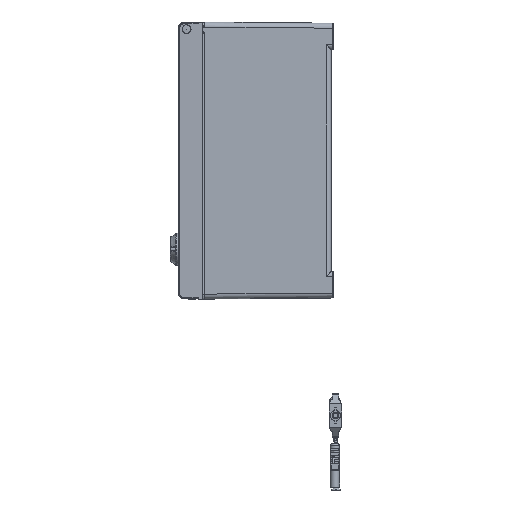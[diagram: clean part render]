
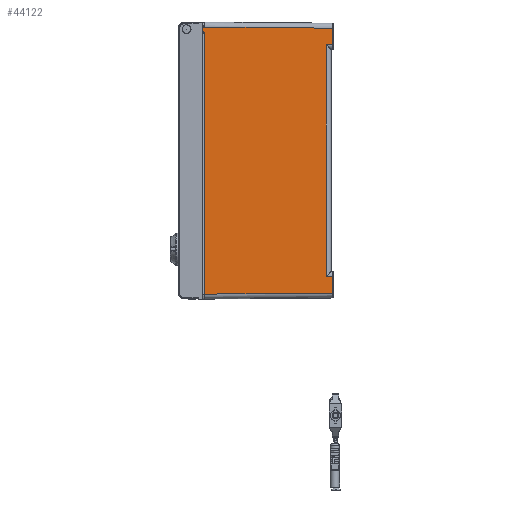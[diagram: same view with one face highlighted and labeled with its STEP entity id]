
A CAD part, left-side view. The second image highlights one B-rep face of the part: STEP entity #44122.
In plain terms, the highlighted planar face has unit normal (-1, -0.018, 0).
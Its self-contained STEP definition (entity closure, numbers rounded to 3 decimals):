
#2776=FACE_OUTER_BOUND('',#5617,.T.);
#5617=EDGE_LOOP('',(#30683,#30684,#30685,#30686,#30687,#30688,#30689,#30690,
#30691,#30692,#30693));
#12146=LINE('',#72000,#15387);
#12147=LINE('',#72065,#15388);
#12199=LINE('',#74181,#15440);
#12206=LINE('',#74388,#15447);
#12207=LINE('',#74392,#15448);
#12209=LINE('',#74396,#15450);
#12210=LINE('',#74400,#15451);
#12211=LINE('',#74402,#15452);
#12212=LINE('',#74403,#15453);
#12213=LINE('',#74405,#15454);
#12214=LINE('',#74406,#15455);
#15387=VECTOR('',#52835,14.936);
#15388=VECTOR('',#52842,115.074);
#15440=VECTOR('',#53018,14.936);
#15447=VECTOR('',#53055,5.441);
#15448=VECTOR('',#53060,208.828);
#15450=VECTOR('',#53066,5.441);
#15451=VECTOR('',#53069,4.147);
#15452=VECTOR('',#53070,9.477);
#15453=VECTOR('',#53071,236.419);
#15454=VECTOR('',#53072,115.076);
#15455=VECTOR('',#53073,9.475);
#18827=VERTEX_POINT('',#71995);
#18828=VERTEX_POINT('',#71999);
#18829=VERTEX_POINT('',#72064);
#18905=VERTEX_POINT('',#74176);
#18906=VERTEX_POINT('',#74180);
#18911=VERTEX_POINT('',#74387);
#18912=VERTEX_POINT('',#74391);
#18913=VERTEX_POINT('',#74398);
#18914=VERTEX_POINT('',#74399);
#18915=VERTEX_POINT('',#74401);
#18916=VERTEX_POINT('',#74404);
#23185=EDGE_CURVE('',#18827,#18828,#12146,.T.);
#23188=EDGE_CURVE('',#18828,#18829,#12147,.T.);
#23309=EDGE_CURVE('',#18905,#18906,#12199,.T.);
#23324=EDGE_CURVE('',#18906,#18911,#12206,.T.);
#23326=EDGE_CURVE('',#18912,#18911,#12207,.T.);
#23329=EDGE_CURVE('',#18827,#18912,#12209,.T.);
#23330=EDGE_CURVE('',#18913,#18914,#12210,.T.);
#23331=EDGE_CURVE('',#18915,#18914,#12211,.T.);
#23332=EDGE_CURVE('',#18915,#18829,#12212,.T.);
#23333=EDGE_CURVE('',#18916,#18905,#12213,.T.);
#23334=EDGE_CURVE('',#18916,#18913,#12214,.T.);
#30683=ORIENTED_EDGE('',*,*,#23330,.T.);
#30684=ORIENTED_EDGE('',*,*,#23331,.F.);
#30685=ORIENTED_EDGE('',*,*,#23332,.T.);
#30686=ORIENTED_EDGE('',*,*,#23188,.F.);
#30687=ORIENTED_EDGE('',*,*,#23185,.F.);
#30688=ORIENTED_EDGE('',*,*,#23329,.T.);
#30689=ORIENTED_EDGE('',*,*,#23326,.T.);
#30690=ORIENTED_EDGE('',*,*,#23324,.F.);
#30691=ORIENTED_EDGE('',*,*,#23309,.F.);
#30692=ORIENTED_EDGE('',*,*,#23333,.F.);
#30693=ORIENTED_EDGE('',*,*,#23334,.T.);
#42981=PLANE('',#47450);
#44122=ADVANCED_FACE('',(#2776),#42981,.T.);
#47450=AXIS2_PLACEMENT_3D('',#74397,#53067,#53068);
#52835=DIRECTION('',(0.,0.,-1.));
#52842=DIRECTION('',(-0.017,1.,-0.009));
#53018=DIRECTION('',(0.,0.,-1.));
#53055=DIRECTION('',(-0.017,1.,-0.017));
#53060=DIRECTION('',(0.,0.,1.));
#53066=DIRECTION('',(-0.017,1.,0.017));
#53067=DIRECTION('center_axis',(-1.,-0.017,
0.));
#53068=DIRECTION('ref_axis',(0.,0.,-1.));
#53069=DIRECTION('',(0.,0.,-1.));
#53070=DIRECTION('',(-0.017,1.,0.017));
#53071=DIRECTION('',(0.,0.,-1.));
#53072=DIRECTION('',(0.017,-1.,-0.009));
#53073=DIRECTION('',(-0.017,1.,-0.017));
#71995=CARTESIAN_POINT('',(-136.587,-1.017,-104.509));
#71999=CARTESIAN_POINT('',(-136.587,-1.017,-119.444));
#72000=CARTESIAN_POINT('',(-136.587,-1.017,-104.509));
#72064=CARTESIAN_POINT('',(-138.596,114.035,-120.448));
#72065=CARTESIAN_POINT('',(-136.587,-1.017,-119.444));
#74176=CARTESIAN_POINT('',(-136.587,-1.017,119.444));
#74180=CARTESIAN_POINT('',(-136.587,-1.017,104.509));
#74181=CARTESIAN_POINT('',(-136.587,-1.017,119.444));
#74387=CARTESIAN_POINT('',(-136.682,4.421,104.414));
#74388=CARTESIAN_POINT('',(-136.587,-1.017,104.509));
#74391=CARTESIAN_POINT('',(-136.682,4.421,-104.414));
#74392=CARTESIAN_POINT('',(-136.682,4.421,-104.414));
#74396=CARTESIAN_POINT('',(-136.587,-1.017,-104.509));
#74397=CARTESIAN_POINT('Origin',(-138.63,116.,-129.97));
#74398=CARTESIAN_POINT('',(-138.761,123.509,120.283));
#74399=CARTESIAN_POINT('',(-138.761,123.509,116.136));
#74400=CARTESIAN_POINT('',(-138.761,123.509,120.283));
#74401=CARTESIAN_POINT('',(-138.596,114.035,115.971));
#74402=CARTESIAN_POINT('',(-138.596,114.035,115.971));
#74403=CARTESIAN_POINT('',(-138.596,114.035,115.971));
#74404=CARTESIAN_POINT('',(-138.596,114.036,120.448));
#74405=CARTESIAN_POINT('',(-138.596,114.036,120.448));
#74406=CARTESIAN_POINT('',(-138.596,114.036,120.448));
